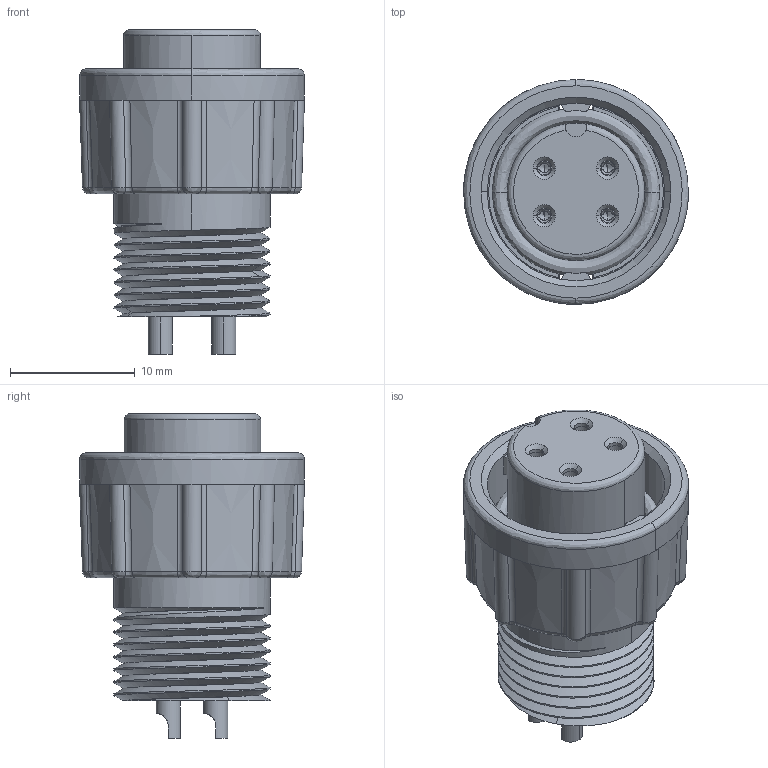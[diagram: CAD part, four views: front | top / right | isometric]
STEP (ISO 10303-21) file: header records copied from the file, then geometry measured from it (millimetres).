
FILE_DESCRIPTION (( 'STEP AP203' ), '1' );
FILE_NAME ('868-04B-203R001.STEP', '2024-06-13T20:19:01', ( '' ), ( '' ), 'SwSTEP 2.0', 'SolidWorks 2020', '' );
FILE_SCHEMA (( 'CONFIG_CONTROL_DESIGN' ));
Length unit declared in the file: millimetre
Products named in the file (1): 868-04B-203R001
Bounding box: 18 x 18 x 26 mm (x, y, z)
Volume: 3121.9 mm3; surface area: 3715.7 mm2
Topology: 2 solids, 2 shells, 324 faces, 829 edges, 509 vertices
Faces by surface type: cylinder 110, plane 89, cone 75, bspline 50
Entity records: 14481 total; most frequent: CARTESIAN_POINT 7243, ORIENTED_EDGE 1626, DIRECTION 1351, EDGE_CURVE 813, AXIS2_PLACEMENT_3D 562, VERTEX_POINT 509, EDGE_LOOP 346, FACE_OUTER_BOUND 324
